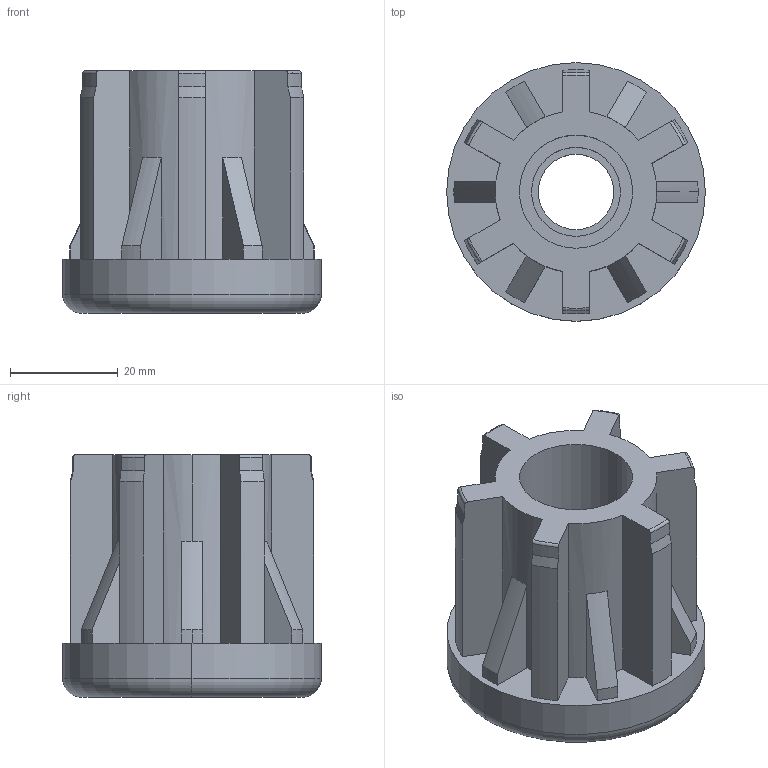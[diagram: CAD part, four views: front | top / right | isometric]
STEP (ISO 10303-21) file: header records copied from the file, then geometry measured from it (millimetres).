
FILE_DESCRIPTION (( 'STEP AP214' ), '1' );
FILE_NAME ('42006448212.STEP', '2020-02-25T17:13:50', ( '' ), ( '' ), 'SwSTEP 2.0', 'SolidWorks 2018', '' );
FILE_SCHEMA (( 'AUTOMOTIVE_DESIGN' ));
Length unit declared in the file: millimetre
Products named in the file (1): 42006448212
Bounding box: 48 x 48 x 45 mm (x, y, z)
Volume: 40867.1 mm3; surface area: 16354.9 mm2
Topology: 2 solids, 2 shells, 93 faces, 253 edges, 167 vertices
Faces by surface type: cylinder 39, plane 31, cone 15, torus 8
Entity records: 3243 total; most frequent: CARTESIAN_POINT 808, DIRECTION 508, ORIENTED_EDGE 506, EDGE_CURVE 253, AXIS2_PLACEMENT_3D 197, VERTEX_POINT 167, LINE 114, VECTOR 114
